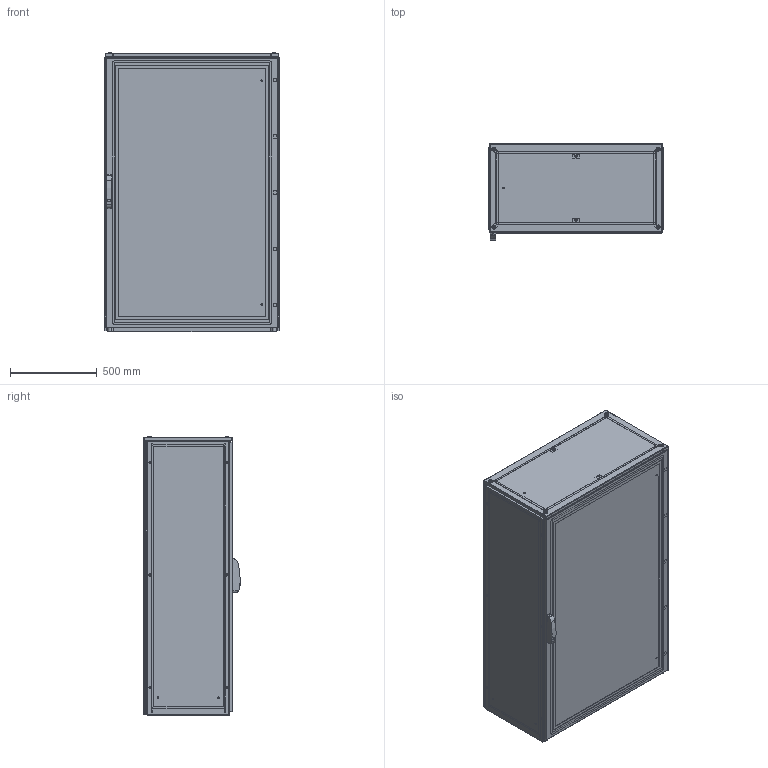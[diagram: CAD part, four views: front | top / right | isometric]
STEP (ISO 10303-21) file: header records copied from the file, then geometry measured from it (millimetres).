
FILE_DESCRIPTION(/* description */ ('STEP AP214'),/* implementation_level */ '2;1');
FILE_NAME(/* name */ 'ENUX101605PR-LOD350',/* time_stamp */ '2025-10-03T13:52:01+02:00',/* author */ ('License CC BY-ND 4.0'),/* organization */ ('CADENAS'),/* preprocessor_version */ 'ST-DEVELOPER v19.3',/* originating_system */ 'PARTsolutions',/* authorisation */ ' ');
FILE_SCHEMA (('AUTOMOTIVE_DESIGN {1 0 10303 214 3 1 1}'));
Length unit declared in the file: millimetre
Products named in the file (11): ENUX101605PR-LOD350; ENUX101605PR-LOD350_CON; ENUX101605PR-LOD350_floor1; ENUX101605PR-LOD350_floor2; Screw M12x30 architecture 350; ENUX101605PR-LOD350_side; ENUX101605PR-LOD350_top; ENUX101605PR-LOD350_back_door_r; ENUX101605PR-LOD350_back_door_l; ENUX101605PR-LOD350_door; ENUX101605PR-LOD350_handle
Assembly tree (20 placements, depth 2):
  ENUX101605PR-LOD350
    ENUX101605PR-LOD350_CON
    ENUX101605PR-LOD350_floor1  x4
    ENUX101605PR-LOD350_floor2  x4
    Screw M12x30 architecture 350  x4
    ENUX101605PR-LOD350_side  x2
    ENUX101605PR-LOD350_top
    ENUX101605PR-LOD350_back_door_r
    ENUX101605PR-LOD350_back_door_l
    ENUX101605PR-LOD350_door
    ENUX101605PR-LOD350_handle
Bounding box: 1012 x 557 x 1614.1 mm (x, y, z)
Volume: 22297808.3 mm3; surface area: 17309488.8 mm2
Topology: 20 solids, 20 shells, 2095 faces, 5815 edges, 3790 vertices
Faces by surface type: plane 1087, cylinder 823, cone 86, torus 82, sphere 17
Full cylindrical faces by diameter (mm): 4.5 x132, 6 x20, 6.8 x8, 7 x3, 9 x11, 12 x16, 13 x4, 14 x2, 17 x2, 18 x1, 21 x4, 28 x2
Entity records: 52005 total; most frequent: DIRECTION 9015, CARTESIAN_POINT 9003, ORIENTED_EDGE 8412, EDGE_CURVE 4206, AXIS2_PLACEMENT_3D 3225, VERTEX_POINT 2942, LINE 2565, VECTOR 2565
